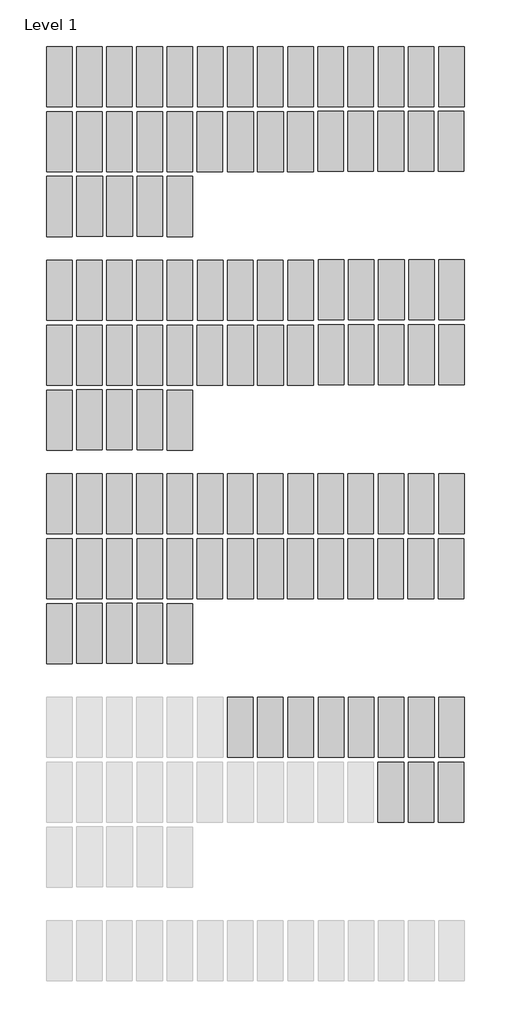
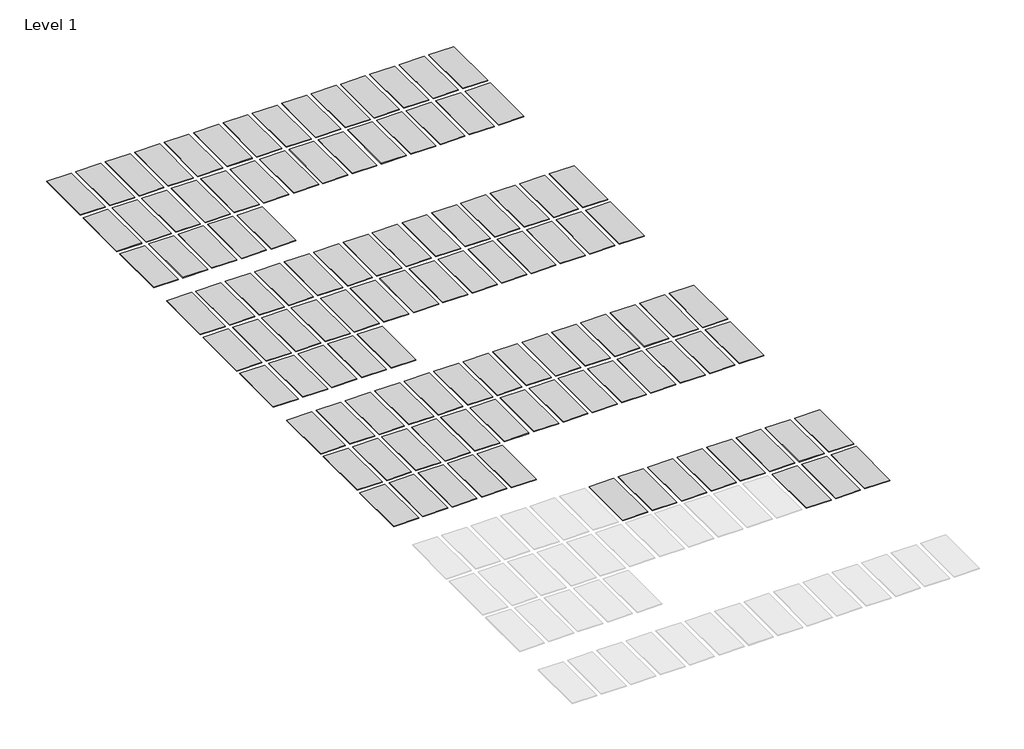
# One storey, part 3 of 3: 110 proxies.
"""IFC4 building model written with IfcOpenShell, lengths in millimetres."""

from ifc_helpers import new_model, si_unit, origin, place, context, project, spatial, transform, mapped, element, save
from components import materialsample_type_1_ed131d8e

model = new_model("IFC4")

# Units and contexts
model_context = context("Model", 3, world=origin())
ifc_project = project(units=[si_unit("LENGTHUNIT", "METRE", prefix="MILLI")], contexts=[model_context])

# Site, building, storey
site = spatial("IfcSite", under=ifc_project)
building = spatial("IfcBuilding", under=site)
storey = spatial("IfcBuildingStorey", under=building, Name="Level 1", Elevation=0.0)

# Proxies
placement = place(None, origin())
materialsample_type_1_shape = materialsample_type_1_ed131d8e(model_context)
element("IfcBuildingElementProxy", 1, Name="MaterialSample : Type 1", ObjectType="MaterialSample : Type 1", at=placement, inside=storey, context=model_context, shape_type="MappedRepresentation", body=[
    mapped(materialsample_type_1_shape, transform((0.0, -13258.8, 0.0), x_axis=(1.0, 0.0, 0.0), y_axis=(0.0, 1.0, 0.0), z_axis=(0.0, 0.0, 1.0))),
])
element("IfcBuildingElementProxy", 2, Name="MaterialSample : Type 1", ObjectType="MaterialSample : Type 1", at=placement, inside=storey, context=model_context, shape_type="MappedRepresentation", body=[
    mapped(materialsample_type_1_shape, transform((1371.6, -13258.8, 0.0), x_axis=(1.0, 0.0, 0.0), y_axis=(0.0, 1.0, 0.0), z_axis=(0.0, 0.0, 1.0))),
])
element("IfcBuildingElementProxy", 3, Name="MaterialSample : Type 1", ObjectType="MaterialSample : Type 1", at=placement, inside=storey, context=model_context, shape_type="MappedRepresentation", body=[
    mapped(materialsample_type_1_shape, transform((2750.8974335, -13258.8, 0.0), x_axis=(1.0, 0.0, 0.0), y_axis=(0.0, 1.0, 0.0), z_axis=(0.0, 0.0, 1.0))),
])
element("IfcBuildingElementProxy", 4, Name="MaterialSample : Type 1", ObjectType="MaterialSample : Type 1", at=placement, inside=storey, context=model_context, shape_type="MappedRepresentation", body=[
    mapped(materialsample_type_1_shape, transform((4130.1948669, -13258.8, 0.0), x_axis=(1.0, 0.0, 0.0), y_axis=(0.0, 1.0, 0.0), z_axis=(0.0, 0.0, 1.0))),
])
element("IfcBuildingElementProxy", 5, Name="MaterialSample : Type 1", ObjectType="MaterialSample : Type 1", at=placement, inside=storey, context=model_context, shape_type="MappedRepresentation", body=[
    mapped(materialsample_type_1_shape, transform((5509.4923004, -13258.8, 0.0), x_axis=(1.0, 0.0, 0.0), y_axis=(0.0, 1.0, 0.0), z_axis=(0.0, 0.0, 1.0))),
])
element("IfcBuildingElementProxy", 6, Name="MaterialSample : Type 1", ObjectType="MaterialSample : Type 1", at=placement, inside=storey, context=model_context, shape_type="MappedRepresentation", body=[
    mapped(materialsample_type_1_shape, transform((6896.4871673, -13258.8, 0.0), x_axis=(1.0, 0.0, 0.0), y_axis=(0.0, 1.0, 0.0), z_axis=(0.0, 0.0, 1.0))),
])
element("IfcBuildingElementProxy", 7, Name="MaterialSample : Type 1", ObjectType="MaterialSample : Type 1", at=placement, inside=storey, context=model_context, shape_type="MappedRepresentation", body=[
    mapped(materialsample_type_1_shape, transform((8275.7846008, -13258.8, 0.0), x_axis=(1.0, 0.0, 0.0), y_axis=(0.0, 1.0, 0.0), z_axis=(0.0, 0.0, 1.0))),
])
element("IfcBuildingElementProxy", 8, Name="MaterialSample : Type 1", ObjectType="MaterialSample : Type 1", at=placement, inside=storey, context=model_context, shape_type="MappedRepresentation", body=[
    mapped(materialsample_type_1_shape, transform((9647.3846008, -13258.8, 0.0), x_axis=(1.0, 0.0, 0.0), y_axis=(0.0, 1.0, 0.0), z_axis=(0.0, 0.0, 1.0))),
])
element("IfcBuildingElementProxy", 9, Name="MaterialSample : Type 1", ObjectType="MaterialSample : Type 1", at=placement, inside=storey, context=model_context, shape_type="MappedRepresentation", body=[
    mapped(materialsample_type_1_shape, transform((11034.3794677, -13258.8, 0.0), x_axis=(1.0, 0.0, 0.0), y_axis=(0.0, 1.0, 0.0), z_axis=(0.0, 0.0, 1.0))),
])
element("IfcBuildingElementProxy", 10, Name="MaterialSample : Type 1", ObjectType="MaterialSample : Type 1", at=placement, inside=storey, context=model_context, shape_type="MappedRepresentation", body=[
    mapped(materialsample_type_1_shape, transform((12413.6769011, -13258.8, 0.0), x_axis=(1.0, 0.0, 0.0), y_axis=(0.0, 1.0, 0.0), z_axis=(0.0, 0.0, 1.0))),
])
element("IfcBuildingElementProxy", 11, Name="MaterialSample : Type 1", ObjectType="MaterialSample : Type 1", at=placement, inside=storey, context=model_context, shape_type="MappedRepresentation", body=[
    mapped(materialsample_type_1_shape, transform((13785.2769011, -13258.8, 0.0), x_axis=(1.0, 0.0, 0.0), y_axis=(0.0, 1.0, 0.0), z_axis=(0.0, 0.0, 1.0))),
])
element("IfcBuildingElementProxy", 12, Name="MaterialSample : Type 1", ObjectType="MaterialSample : Type 1", at=placement, inside=storey, context=model_context, shape_type="MappedRepresentation", body=[
    mapped(materialsample_type_1_shape, transform((15164.5743346, -13258.8, 0.0), x_axis=(1.0, 0.0, 0.0), y_axis=(0.0, 1.0, 0.0), z_axis=(0.0, 0.0, 1.0))),
])
element("IfcBuildingElementProxy", 13, Name="MaterialSample : Type 1", ObjectType="MaterialSample : Type 1", at=placement, inside=storey, context=model_context, shape_type="MappedRepresentation", body=[
    mapped(materialsample_type_1_shape, transform((16543.871768, -13258.8, 0.0), x_axis=(1.0, 0.0, 0.0), y_axis=(0.0, 1.0, 0.0), z_axis=(0.0, 0.0, 1.0))),
])
element("IfcBuildingElementProxy", 14, Name="MaterialSample : Type 1", ObjectType="MaterialSample : Type 1", at=placement, inside=storey, context=model_context, shape_type="MappedRepresentation", body=[
    mapped(materialsample_type_1_shape, transform((17923.1692015, -13258.8, 0.0), x_axis=(1.0, 0.0, 0.0), y_axis=(0.0, 1.0, 0.0), z_axis=(0.0, 0.0, 1.0))),
])
element("IfcBuildingElementProxy", 15, Name="MaterialSample : Type 1", ObjectType="MaterialSample : Type 1", at=placement, inside=storey, context=model_context, shape_type="MappedRepresentation", body=[
    mapped(materialsample_type_1_shape, transform((0.0, -16225.2569203, 0.0), x_axis=(1.0, 0.0, 0.0), y_axis=(0.0, 1.0, 0.0), z_axis=(0.0, 0.0, 1.0))),
])
element("IfcBuildingElementProxy", 16, Name="MaterialSample : Type 1", ObjectType="MaterialSample : Type 1", at=placement, inside=storey, context=model_context, shape_type="MappedRepresentation", body=[
    mapped(materialsample_type_1_shape, transform((1379.2974335, -16225.2569203, 0.0), x_axis=(1.0, 0.0, 0.0), y_axis=(0.0, 1.0, 0.0), z_axis=(0.0, 0.0, 1.0))),
])
element("IfcBuildingElementProxy", 17, Name="MaterialSample : Type 1", ObjectType="MaterialSample : Type 1", at=placement, inside=storey, context=model_context, shape_type="MappedRepresentation", body=[
    mapped(materialsample_type_1_shape, transform((2750.8974335, -16225.2569203, 0.0), x_axis=(1.0, 0.0, 0.0), y_axis=(0.0, 1.0, 0.0), z_axis=(0.0, 0.0, 1.0))),
])
element("IfcBuildingElementProxy", 18, Name="MaterialSample : Type 1", ObjectType="MaterialSample : Type 1", at=placement, inside=storey, context=model_context, shape_type="MappedRepresentation", body=[
    mapped(materialsample_type_1_shape, transform((4137.8923004, -16225.2569203, 0.0), x_axis=(1.0, 0.0, 0.0), y_axis=(0.0, 1.0, 0.0), z_axis=(0.0, 0.0, 1.0))),
])
element("IfcBuildingElementProxy", 19, Name="MaterialSample : Type 1", ObjectType="MaterialSample : Type 1", at=placement, inside=storey, context=model_context, shape_type="MappedRepresentation", body=[
    mapped(materialsample_type_1_shape, transform((5509.4923004, -16225.2569203, 0.0), x_axis=(1.0, 0.0, 0.0), y_axis=(0.0, 1.0, 0.0), z_axis=(0.0, 0.0, 1.0))),
])
element("IfcBuildingElementProxy", 20, Name="MaterialSample : Type 1", ObjectType="MaterialSample : Type 1", at=placement, inside=storey, context=model_context, shape_type="MappedRepresentation", body=[
    mapped(materialsample_type_1_shape, transform((6888.7897338, -16225.2569203, 0.0), x_axis=(1.0, 0.0, 0.0), y_axis=(0.0, 1.0, 0.0), z_axis=(0.0, 0.0, 1.0))),
])
element("IfcBuildingElementProxy", 21, Name="MaterialSample : Type 1", ObjectType="MaterialSample : Type 1", at=placement, inside=storey, context=model_context, shape_type="MappedRepresentation", body=[
    mapped(materialsample_type_1_shape, transform((8285.7897338, -16225.2569203, 0.0), x_axis=(1.0, 0.0, 0.0), y_axis=(0.0, 1.0, 0.0), z_axis=(0.0, 0.0, 1.0))),
])
element("IfcBuildingElementProxy", 22, Name="MaterialSample : Type 1", ObjectType="MaterialSample : Type 1", at=placement, inside=storey, context=model_context, shape_type="MappedRepresentation", body=[
    mapped(materialsample_type_1_shape, transform((9655.0820342, -16225.2569203, 0.0), x_axis=(1.0, 0.0, 0.0), y_axis=(0.0, 1.0, 0.0), z_axis=(0.0, 0.0, 1.0))),
])
element("IfcBuildingElementProxy", 23, Name="MaterialSample : Type 1", ObjectType="MaterialSample : Type 1", at=placement, inside=storey, context=model_context, shape_type="MappedRepresentation", body=[
    mapped(materialsample_type_1_shape, transform((11026.6820342, -16225.2569203, 0.0), x_axis=(1.0, 0.0, 0.0), y_axis=(0.0, 1.0, 0.0), z_axis=(0.0, 0.0, 1.0))),
])
element("IfcBuildingElementProxy", 24, Name="MaterialSample : Type 1", ObjectType="MaterialSample : Type 1", at=placement, inside=storey, context=model_context, shape_type="MappedRepresentation", body=[
    mapped(materialsample_type_1_shape, transform((12405.9794677, -16215.2284602, 0.0), x_axis=(1.0, 0.0, 0.0), y_axis=(0.0, 1.0, 0.0), z_axis=(0.0, 0.0, 1.0))),
])
element("IfcBuildingElementProxy", 25, Name="MaterialSample : Type 1", ObjectType="MaterialSample : Type 1", at=placement, inside=storey, context=model_context, shape_type="MappedRepresentation", body=[
    mapped(materialsample_type_1_shape, transform((13777.5794677, -16215.2284602, 0.0), x_axis=(1.0, 0.0, 0.0), y_axis=(0.0, 1.0, 0.0), z_axis=(0.0, 0.0, 1.0))),
])
element("IfcBuildingElementProxy", 26, Name="MaterialSample : Type 1", ObjectType="MaterialSample : Type 1", at=placement, inside=storey, context=model_context, shape_type="MappedRepresentation", body=[
    mapped(materialsample_type_1_shape, transform((15156.8769011, -16215.2284602, 0.0), x_axis=(1.0, 0.0, 0.0), y_axis=(0.0, 1.0, 0.0), z_axis=(0.0, 0.0, 1.0))),
])
element("IfcBuildingElementProxy", 27, Name="MaterialSample : Type 1", ObjectType="MaterialSample : Type 1", at=placement, inside=storey, context=model_context, shape_type="MappedRepresentation", body=[
    mapped(materialsample_type_1_shape, transform((16536.1743346, -16215.2284602, 0.0), x_axis=(1.0, 0.0, 0.0), y_axis=(0.0, 1.0, 0.0), z_axis=(0.0, 0.0, 1.0))),
])
element("IfcBuildingElementProxy", 28, Name="MaterialSample : Type 1", ObjectType="MaterialSample : Type 1", at=placement, inside=storey, context=model_context, shape_type="MappedRepresentation", body=[
    mapped(materialsample_type_1_shape, transform((17915.471768, -16215.2284602, 0.0), x_axis=(1.0, 0.0, 0.0), y_axis=(0.0, 1.0, 0.0), z_axis=(0.0, 0.0, 1.0))),
])
element("IfcBuildingElementProxy", 29, Name="MaterialSample : Type 1", ObjectType="MaterialSample : Type 1", at=placement, inside=storey, context=model_context, shape_type="MappedRepresentation", body=[
    mapped(materialsample_type_1_shape, transform((7.6974335, -19191.7138407, 0.0), x_axis=(1.0, 0.0, 0.0), y_axis=(0.0, 1.0, 0.0), z_axis=(0.0, 0.0, 1.0))),
])
element("IfcBuildingElementProxy", 30, Name="MaterialSample : Type 1", ObjectType="MaterialSample : Type 1", at=placement, inside=storey, context=model_context, shape_type="MappedRepresentation", body=[
    mapped(materialsample_type_1_shape, transform((1386.9948669, -19171.6569203, 0.0), x_axis=(1.0, 0.0, 0.0), y_axis=(0.0, 1.0, 0.0), z_axis=(0.0, 0.0, 1.0))),
])
element("IfcBuildingElementProxy", 31, Name="MaterialSample : Type 1", ObjectType="MaterialSample : Type 1", at=placement, inside=storey, context=model_context, shape_type="MappedRepresentation", body=[
    mapped(materialsample_type_1_shape, transform((2758.5948669, -19171.6569203, 0.0), x_axis=(1.0, 0.0, 0.0), y_axis=(0.0, 1.0, 0.0), z_axis=(0.0, 0.0, 1.0))),
])
element("IfcBuildingElementProxy", 32, Name="MaterialSample : Type 1", ObjectType="MaterialSample : Type 1", at=placement, inside=storey, context=model_context, shape_type="MappedRepresentation", body=[
    mapped(materialsample_type_1_shape, transform((4145.5897338, -19171.6569203, 0.0), x_axis=(1.0, 0.0, 0.0), y_axis=(0.0, 1.0, 0.0), z_axis=(0.0, 0.0, 1.0))),
])
element("IfcBuildingElementProxy", 33, Name="MaterialSample : Type 1", ObjectType="MaterialSample : Type 1", at=placement, inside=storey, context=model_context, shape_type="MappedRepresentation", body=[
    mapped(materialsample_type_1_shape, transform((5517.1897338, -19191.7138407, 0.0), x_axis=(1.0, 0.0, 0.0), y_axis=(0.0, 1.0, 0.0), z_axis=(0.0, 0.0, 1.0))),
])
element("IfcBuildingElementProxy", 34, Name="MaterialSample : Type 1", ObjectType="MaterialSample : Type 1", at=placement, inside=storey, context=model_context, shape_type="MappedRepresentation", body=[
    mapped(materialsample_type_1_shape, transform((0.0, -23012.4, 0.0), x_axis=(1.0, 0.0, 0.0), y_axis=(0.0, 1.0, 0.0), z_axis=(0.0, 0.0, 1.0))),
])
element("IfcBuildingElementProxy", 35, Name="MaterialSample : Type 1", ObjectType="MaterialSample : Type 1", at=placement, inside=storey, context=model_context, shape_type="MappedRepresentation", body=[
    mapped(materialsample_type_1_shape, transform((1371.6, -23012.4, 0.0), x_axis=(1.0, 0.0, 0.0), y_axis=(0.0, 1.0, 0.0), z_axis=(0.0, 0.0, 1.0))),
])
element("IfcBuildingElementProxy", 36, Name="MaterialSample : Type 1", ObjectType="MaterialSample : Type 1", at=placement, inside=storey, context=model_context, shape_type="MappedRepresentation", body=[
    mapped(materialsample_type_1_shape, transform((2750.8974335, -23012.4, 0.0), x_axis=(1.0, 0.0, 0.0), y_axis=(0.0, 1.0, 0.0), z_axis=(0.0, 0.0, 1.0))),
])
element("IfcBuildingElementProxy", 37, Name="MaterialSample : Type 1", ObjectType="MaterialSample : Type 1", at=placement, inside=storey, context=model_context, shape_type="MappedRepresentation", body=[
    mapped(materialsample_type_1_shape, transform((4130.1948669, -23012.4, 0.0), x_axis=(1.0, 0.0, 0.0), y_axis=(0.0, 1.0, 0.0), z_axis=(0.0, 0.0, 1.0))),
])
element("IfcBuildingElementProxy", 38, Name="MaterialSample : Type 1", ObjectType="MaterialSample : Type 1", at=placement, inside=storey, context=model_context, shape_type="MappedRepresentation", body=[
    mapped(materialsample_type_1_shape, transform((5509.4923004, -23012.4, 0.0), x_axis=(1.0, 0.0, 0.0), y_axis=(0.0, 1.0, 0.0), z_axis=(0.0, 0.0, 1.0))),
])
element("IfcBuildingElementProxy", 39, Name="MaterialSample : Type 1", ObjectType="MaterialSample : Type 1", at=placement, inside=storey, context=model_context, shape_type="MappedRepresentation", body=[
    mapped(materialsample_type_1_shape, transform((6896.4871673, -23012.4, 0.0), x_axis=(1.0, 0.0, 0.0), y_axis=(0.0, 1.0, 0.0), z_axis=(0.0, 0.0, 1.0))),
])
element("IfcBuildingElementProxy", 40, Name="MaterialSample : Type 1", ObjectType="MaterialSample : Type 1", at=placement, inside=storey, context=model_context, shape_type="MappedRepresentation", body=[
    mapped(materialsample_type_1_shape, transform((8275.7846008, -23012.4, 0.0), x_axis=(1.0, 0.0, 0.0), y_axis=(0.0, 1.0, 0.0), z_axis=(0.0, 0.0, 1.0))),
])
element("IfcBuildingElementProxy", 41, Name="MaterialSample : Type 1", ObjectType="MaterialSample : Type 1", at=placement, inside=storey, context=model_context, shape_type="MappedRepresentation", body=[
    mapped(materialsample_type_1_shape, transform((9647.3846008, -23012.4, 0.0), x_axis=(1.0, 0.0, 0.0), y_axis=(0.0, 1.0, 0.0), z_axis=(0.0, 0.0, 1.0))),
])
element("IfcBuildingElementProxy", 42, Name="MaterialSample : Type 1", ObjectType="MaterialSample : Type 1", at=placement, inside=storey, context=model_context, shape_type="MappedRepresentation", body=[
    mapped(materialsample_type_1_shape, transform((11034.3794677, -23012.4, 0.0), x_axis=(1.0, 0.0, 0.0), y_axis=(0.0, 1.0, 0.0), z_axis=(0.0, 0.0, 1.0))),
])
element("IfcBuildingElementProxy", 43, Name="MaterialSample : Type 1", ObjectType="MaterialSample : Type 1", at=placement, inside=storey, context=model_context, shape_type="MappedRepresentation", body=[
    mapped(materialsample_type_1_shape, transform((11026.6820342, -25978.8569203, 0.0), x_axis=(1.0, 0.0, 0.0), y_axis=(0.0, 1.0, 0.0), z_axis=(0.0, 0.0, 1.0))),
])
element("IfcBuildingElementProxy", 44, Name="MaterialSample : Type 1", ObjectType="MaterialSample : Type 1", at=placement, inside=storey, context=model_context, shape_type="MappedRepresentation", body=[
    mapped(materialsample_type_1_shape, transform((9655.0820342, -25978.8569203, 0.0), x_axis=(1.0, 0.0, 0.0), y_axis=(0.0, 1.0, 0.0), z_axis=(0.0, 0.0, 1.0))),
])
element("IfcBuildingElementProxy", 45, Name="MaterialSample : Type 1", ObjectType="MaterialSample : Type 1", at=placement, inside=storey, context=model_context, shape_type="MappedRepresentation", body=[
    mapped(materialsample_type_1_shape, transform((8285.7897338, -25978.8569203, 0.0), x_axis=(1.0, 0.0, 0.0), y_axis=(0.0, 1.0, 0.0), z_axis=(0.0, 0.0, 1.0))),
])
element("IfcBuildingElementProxy", 46, Name="MaterialSample : Type 1", ObjectType="MaterialSample : Type 1", at=placement, inside=storey, context=model_context, shape_type="MappedRepresentation", body=[
    mapped(materialsample_type_1_shape, transform((6888.7897338, -25978.8569203, 0.0), x_axis=(1.0, 0.0, 0.0), y_axis=(0.0, 1.0, 0.0), z_axis=(0.0, 0.0, 1.0))),
])
element("IfcBuildingElementProxy", 47, Name="MaterialSample : Type 1", ObjectType="MaterialSample : Type 1", at=placement, inside=storey, context=model_context, shape_type="MappedRepresentation", body=[
    mapped(materialsample_type_1_shape, transform((5509.4923004, -25978.8569203, 0.0), x_axis=(1.0, 0.0, 0.0), y_axis=(0.0, 1.0, 0.0), z_axis=(0.0, 0.0, 1.0))),
])
element("IfcBuildingElementProxy", 48, Name="MaterialSample : Type 1", ObjectType="MaterialSample : Type 1", at=placement, inside=storey, context=model_context, shape_type="MappedRepresentation", body=[
    mapped(materialsample_type_1_shape, transform((4137.8923004, -25978.8569203, 0.0), x_axis=(1.0, 0.0, 0.0), y_axis=(0.0, 1.0, 0.0), z_axis=(0.0, 0.0, 1.0))),
])
element("IfcBuildingElementProxy", 49, Name="MaterialSample : Type 1", ObjectType="MaterialSample : Type 1", at=placement, inside=storey, context=model_context, shape_type="MappedRepresentation", body=[
    mapped(materialsample_type_1_shape, transform((2750.8974335, -25978.8569203, 0.0), x_axis=(1.0, 0.0, 0.0), y_axis=(0.0, 1.0, 0.0), z_axis=(0.0, 0.0, 1.0))),
])
element("IfcBuildingElementProxy", 50, Name="MaterialSample : Type 1", ObjectType="MaterialSample : Type 1", at=placement, inside=storey, context=model_context, shape_type="MappedRepresentation", body=[
    mapped(materialsample_type_1_shape, transform((1379.2974335, -25978.8569203, 0.0), x_axis=(1.0, 0.0, 0.0), y_axis=(0.0, 1.0, 0.0), z_axis=(0.0, 0.0, 1.0))),
])
element("IfcBuildingElementProxy", 51, Name="MaterialSample : Type 1", ObjectType="MaterialSample : Type 1", at=placement, inside=storey, context=model_context, shape_type="MappedRepresentation", body=[
    mapped(materialsample_type_1_shape, transform((0.0, -25978.8569203, 0.0), x_axis=(1.0, 0.0, 0.0), y_axis=(0.0, 1.0, 0.0), z_axis=(0.0, 0.0, 1.0))),
])
element("IfcBuildingElementProxy", 52, Name="MaterialSample : Type 1", ObjectType="MaterialSample : Type 1", at=placement, inside=storey, context=model_context, shape_type="MappedRepresentation", body=[
    mapped(materialsample_type_1_shape, transform((17938.5640684, -23002.3715398, 0.0), x_axis=(1.0, 0.0, 0.0), y_axis=(0.0, 1.0, 0.0), z_axis=(0.0, 0.0, 1.0))),
])
element("IfcBuildingElementProxy", 53, Name="MaterialSample : Type 1", ObjectType="MaterialSample : Type 1", at=placement, inside=storey, context=model_context, shape_type="MappedRepresentation", body=[
    mapped(materialsample_type_1_shape, transform((16559.266635, -23002.3715398, 0.0), x_axis=(1.0, 0.0, 0.0), y_axis=(0.0, 1.0, 0.0), z_axis=(0.0, 0.0, 1.0))),
])
element("IfcBuildingElementProxy", 54, Name="MaterialSample : Type 1", ObjectType="MaterialSample : Type 1", at=placement, inside=storey, context=model_context, shape_type="MappedRepresentation", body=[
    mapped(materialsample_type_1_shape, transform((15179.9692015, -23002.3715398, 0.0), x_axis=(1.0, 0.0, 0.0), y_axis=(0.0, 1.0, 0.0), z_axis=(0.0, 0.0, 1.0))),
])
element("IfcBuildingElementProxy", 55, Name="MaterialSample : Type 1", ObjectType="MaterialSample : Type 1", at=placement, inside=storey, context=model_context, shape_type="MappedRepresentation", body=[
    mapped(materialsample_type_1_shape, transform((13800.671768, -23002.3715398, 0.0), x_axis=(1.0, 0.0, 0.0), y_axis=(0.0, 1.0, 0.0), z_axis=(0.0, 0.0, 1.0))),
])
element("IfcBuildingElementProxy", 56, Name="MaterialSample : Type 1", ObjectType="MaterialSample : Type 1", at=placement, inside=storey, context=model_context, shape_type="MappedRepresentation", body=[
    mapped(materialsample_type_1_shape, transform((12429.071768, -23002.3715398, 0.0), x_axis=(1.0, 0.0, 0.0), y_axis=(0.0, 1.0, 0.0), z_axis=(0.0, 0.0, 1.0))),
])
element("IfcBuildingElementProxy", 57, Name="MaterialSample : Type 1", ObjectType="MaterialSample : Type 1", at=placement, inside=storey, context=model_context, shape_type="MappedRepresentation", body=[
    mapped(materialsample_type_1_shape, transform((12421.3743346, -25968.8284602, 0.0), x_axis=(1.0, 0.0, 0.0), y_axis=(0.0, 1.0, 0.0), z_axis=(0.0, 0.0, 1.0))),
])
element("IfcBuildingElementProxy", 58, Name="MaterialSample : Type 1", ObjectType="MaterialSample : Type 1", at=placement, inside=storey, context=model_context, shape_type="MappedRepresentation", body=[
    mapped(materialsample_type_1_shape, transform((13792.9743346, -25968.8284602, 0.0), x_axis=(1.0, 0.0, 0.0), y_axis=(0.0, 1.0, 0.0), z_axis=(0.0, 0.0, 1.0))),
])
element("IfcBuildingElementProxy", 59, Name="MaterialSample : Type 1", ObjectType="MaterialSample : Type 1", at=placement, inside=storey, context=model_context, shape_type="MappedRepresentation", body=[
    mapped(materialsample_type_1_shape, transform((15172.271768, -25968.8284602, 0.0), x_axis=(1.0, 0.0, 0.0), y_axis=(0.0, 1.0, 0.0), z_axis=(0.0, 0.0, 1.0))),
])
element("IfcBuildingElementProxy", 60, Name="MaterialSample : Type 1", ObjectType="MaterialSample : Type 1", at=placement, inside=storey, context=model_context, shape_type="MappedRepresentation", body=[
    mapped(materialsample_type_1_shape, transform((16551.5692015, -25968.8284602, 0.0), x_axis=(1.0, 0.0, 0.0), y_axis=(0.0, 1.0, 0.0), z_axis=(0.0, 0.0, 1.0))),
])
element("IfcBuildingElementProxy", 61, Name="MaterialSample : Type 1", ObjectType="MaterialSample : Type 1", at=placement, inside=storey, context=model_context, shape_type="MappedRepresentation", body=[
    mapped(materialsample_type_1_shape, transform((17930.866635, -25968.8284602, 0.0), x_axis=(1.0, 0.0, 0.0), y_axis=(0.0, 1.0, 0.0), z_axis=(0.0, 0.0, 1.0))),
])
element("IfcBuildingElementProxy", 62, Name="MaterialSample : Type 1", ObjectType="MaterialSample : Type 1", at=placement, inside=storey, context=model_context, shape_type="MappedRepresentation", body=[
    mapped(materialsample_type_1_shape, transform((0.0, -28945.3138407, 0.0), x_axis=(1.0, 0.0, 0.0), y_axis=(0.0, 1.0, 0.0), z_axis=(0.0, 0.0, 1.0))),
])
element("IfcBuildingElementProxy", 63, Name="MaterialSample : Type 1", ObjectType="MaterialSample : Type 1", at=placement, inside=storey, context=model_context, shape_type="MappedRepresentation", body=[
    mapped(materialsample_type_1_shape, transform((1379.2974335, -28925.2569203, 0.0), x_axis=(1.0, 0.0, 0.0), y_axis=(0.0, 1.0, 0.0), z_axis=(0.0, 0.0, 1.0))),
])
element("IfcBuildingElementProxy", 64, Name="MaterialSample : Type 1", ObjectType="MaterialSample : Type 1", at=placement, inside=storey, context=model_context, shape_type="MappedRepresentation", body=[
    mapped(materialsample_type_1_shape, transform((2750.8974335, -28925.2569203, 0.0), x_axis=(1.0, 0.0, 0.0), y_axis=(0.0, 1.0, 0.0), z_axis=(0.0, 0.0, 1.0))),
])
element("IfcBuildingElementProxy", 65, Name="MaterialSample : Type 1", ObjectType="MaterialSample : Type 1", at=placement, inside=storey, context=model_context, shape_type="MappedRepresentation", body=[
    mapped(materialsample_type_1_shape, transform((4137.8923004, -28925.2569203, 0.0), x_axis=(1.0, 0.0, 0.0), y_axis=(0.0, 1.0, 0.0), z_axis=(0.0, 0.0, 1.0))),
])
element("IfcBuildingElementProxy", 66, Name="MaterialSample : Type 1", ObjectType="MaterialSample : Type 1", at=placement, inside=storey, context=model_context, shape_type="MappedRepresentation", body=[
    mapped(materialsample_type_1_shape, transform((5509.4923004, -28945.3138407, 0.0), x_axis=(1.0, 0.0, 0.0), y_axis=(0.0, 1.0, 0.0), z_axis=(0.0, 0.0, 1.0))),
])
element("IfcBuildingElementProxy", 67, Name="MaterialSample : Type 1", ObjectType="MaterialSample : Type 1", at=placement, inside=storey, context=model_context, shape_type="MappedRepresentation", body=[
    mapped(materialsample_type_1_shape, transform((0.0, -32766.0, 0.0), x_axis=(1.0, 0.0, 0.0), y_axis=(0.0, 1.0, 0.0), z_axis=(0.0, 0.0, 1.0))),
])
element("IfcBuildingElementProxy", 68, Name="MaterialSample : Type 1", ObjectType="MaterialSample : Type 1", at=placement, inside=storey, context=model_context, shape_type="MappedRepresentation", body=[
    mapped(materialsample_type_1_shape, transform((1371.6, -32766.0, 0.0), x_axis=(1.0, 0.0, 0.0), y_axis=(0.0, 1.0, 0.0), z_axis=(0.0, 0.0, 1.0))),
])
element("IfcBuildingElementProxy", 69, Name="MaterialSample : Type 1", ObjectType="MaterialSample : Type 1", at=placement, inside=storey, context=model_context, shape_type="MappedRepresentation", body=[
    mapped(materialsample_type_1_shape, transform((2750.8974335, -32766.0, 0.0), x_axis=(1.0, 0.0, 0.0), y_axis=(0.0, 1.0, 0.0), z_axis=(0.0, 0.0, 1.0))),
])
element("IfcBuildingElementProxy", 70, Name="MaterialSample : Type 1", ObjectType="MaterialSample : Type 1", at=placement, inside=storey, context=model_context, shape_type="MappedRepresentation", body=[
    mapped(materialsample_type_1_shape, transform((4130.1948669, -32766.0, 0.0), x_axis=(1.0, 0.0, 0.0), y_axis=(0.0, 1.0, 0.0), z_axis=(0.0, 0.0, 1.0))),
])
element("IfcBuildingElementProxy", 71, Name="MaterialSample : Type 1", ObjectType="MaterialSample : Type 1", at=placement, inside=storey, context=model_context, shape_type="MappedRepresentation", body=[
    mapped(materialsample_type_1_shape, transform((5509.4923004, -32766.0, 0.0), x_axis=(1.0, 0.0, 0.0), y_axis=(0.0, 1.0, 0.0), z_axis=(0.0, 0.0, 1.0))),
])
element("IfcBuildingElementProxy", 72, Name="MaterialSample : Type 1", ObjectType="MaterialSample : Type 1", at=placement, inside=storey, context=model_context, shape_type="MappedRepresentation", body=[
    mapped(materialsample_type_1_shape, transform((6896.4871673, -32766.0, 0.0), x_axis=(1.0, 0.0, 0.0), y_axis=(0.0, 1.0, 0.0), z_axis=(0.0, 0.0, 1.0))),
])
element("IfcBuildingElementProxy", 73, Name="MaterialSample : Type 1", ObjectType="MaterialSample : Type 1", at=placement, inside=storey, context=model_context, shape_type="MappedRepresentation", body=[
    mapped(materialsample_type_1_shape, transform((8275.7846008, -32766.0, 0.0), x_axis=(1.0, 0.0, 0.0), y_axis=(0.0, 1.0, 0.0), z_axis=(0.0, 0.0, 1.0))),
])
element("IfcBuildingElementProxy", 74, Name="MaterialSample : Type 1", ObjectType="MaterialSample : Type 1", at=placement, inside=storey, context=model_context, shape_type="MappedRepresentation", body=[
    mapped(materialsample_type_1_shape, transform((9647.3846008, -32766.0, 0.0), x_axis=(1.0, 0.0, 0.0), y_axis=(0.0, 1.0, 0.0), z_axis=(0.0, 0.0, 1.0))),
])
element("IfcBuildingElementProxy", 75, Name="MaterialSample : Type 1", ObjectType="MaterialSample : Type 1", at=placement, inside=storey, context=model_context, shape_type="MappedRepresentation", body=[
    mapped(materialsample_type_1_shape, transform((11034.3794677, -32766.0, 0.0), x_axis=(1.0, 0.0, 0.0), y_axis=(0.0, 1.0, 0.0), z_axis=(0.0, 0.0, 1.0))),
])
element("IfcBuildingElementProxy", 76, Name="MaterialSample : Type 1", ObjectType="MaterialSample : Type 1", at=placement, inside=storey, context=model_context, shape_type="MappedRepresentation", body=[
    mapped(materialsample_type_1_shape, transform((11026.6820342, -35732.4569203, 0.0), x_axis=(1.0, 0.0, 0.0), y_axis=(0.0, 1.0, 0.0), z_axis=(0.0, 0.0, 1.0))),
])
element("IfcBuildingElementProxy", 77, Name="MaterialSample : Type 1", ObjectType="MaterialSample : Type 1", at=placement, inside=storey, context=model_context, shape_type="MappedRepresentation", body=[
    mapped(materialsample_type_1_shape, transform((9655.0820342, -35732.4569203, 0.0), x_axis=(1.0, 0.0, 0.0), y_axis=(0.0, 1.0, 0.0), z_axis=(0.0, 0.0, 1.0))),
])
element("IfcBuildingElementProxy", 78, Name="MaterialSample : Type 1", ObjectType="MaterialSample : Type 1", at=placement, inside=storey, context=model_context, shape_type="MappedRepresentation", body=[
    mapped(materialsample_type_1_shape, transform((8285.7897338, -35732.4569203, 0.0), x_axis=(1.0, 0.0, 0.0), y_axis=(0.0, 1.0, 0.0), z_axis=(0.0, 0.0, 1.0))),
])
element("IfcBuildingElementProxy", 79, Name="MaterialSample : Type 1", ObjectType="MaterialSample : Type 1", at=placement, inside=storey, context=model_context, shape_type="MappedRepresentation", body=[
    mapped(materialsample_type_1_shape, transform((6888.7897338, -35732.4569203, 0.0), x_axis=(1.0, 0.0, 0.0), y_axis=(0.0, 1.0, 0.0), z_axis=(0.0, 0.0, 1.0))),
])
element("IfcBuildingElementProxy", 80, Name="MaterialSample : Type 1", ObjectType="MaterialSample : Type 1", at=placement, inside=storey, context=model_context, shape_type="MappedRepresentation", body=[
    mapped(materialsample_type_1_shape, transform((5509.4923004, -35732.4569203, 0.0), x_axis=(1.0, 0.0, 0.0), y_axis=(0.0, 1.0, 0.0), z_axis=(0.0, 0.0, 1.0))),
])
element("IfcBuildingElementProxy", 81, Name="MaterialSample : Type 1", ObjectType="MaterialSample : Type 1", at=placement, inside=storey, context=model_context, shape_type="MappedRepresentation", body=[
    mapped(materialsample_type_1_shape, transform((4137.8923004, -35732.4569203, 0.0), x_axis=(1.0, 0.0, 0.0), y_axis=(0.0, 1.0, 0.0), z_axis=(0.0, 0.0, 1.0))),
])
element("IfcBuildingElementProxy", 82, Name="MaterialSample : Type 1", ObjectType="MaterialSample : Type 1", at=placement, inside=storey, context=model_context, shape_type="MappedRepresentation", body=[
    mapped(materialsample_type_1_shape, transform((2750.8974335, -35732.4569203, 0.0), x_axis=(1.0, 0.0, 0.0), y_axis=(0.0, 1.0, 0.0), z_axis=(0.0, 0.0, 1.0))),
])
element("IfcBuildingElementProxy", 83, Name="MaterialSample : Type 1", ObjectType="MaterialSample : Type 1", at=placement, inside=storey, context=model_context, shape_type="MappedRepresentation", body=[
    mapped(materialsample_type_1_shape, transform((1379.2974335, -35732.4569203, 0.0), x_axis=(1.0, 0.0, 0.0), y_axis=(0.0, 1.0, 0.0), z_axis=(0.0, 0.0, 1.0))),
])
element("IfcBuildingElementProxy", 84, Name="MaterialSample : Type 1", ObjectType="MaterialSample : Type 1", at=placement, inside=storey, context=model_context, shape_type="MappedRepresentation", body=[
    mapped(materialsample_type_1_shape, transform((0.0, -35732.4569203, 0.0), x_axis=(1.0, 0.0, 0.0), y_axis=(0.0, 1.0, 0.0), z_axis=(0.0, 0.0, 1.0))),
])
element("IfcBuildingElementProxy", 85, Name="MaterialSample : Type 1", ObjectType="MaterialSample : Type 1", at=placement, inside=storey, context=model_context, shape_type="MappedRepresentation", body=[
    mapped(materialsample_type_1_shape, transform((17923.1692015, -32766.0, 0.0), x_axis=(1.0, 0.0, 0.0), y_axis=(0.0, 1.0, 0.0), z_axis=(0.0, 0.0, 1.0))),
])
element("IfcBuildingElementProxy", 86, Name="MaterialSample : Type 1", ObjectType="MaterialSample : Type 1", at=placement, inside=storey, context=model_context, shape_type="MappedRepresentation", body=[
    mapped(materialsample_type_1_shape, transform((16543.871768, -32766.0, 0.0), x_axis=(1.0, 0.0, 0.0), y_axis=(0.0, 1.0, 0.0), z_axis=(0.0, 0.0, 1.0))),
])
element("IfcBuildingElementProxy", 87, Name="MaterialSample : Type 1", ObjectType="MaterialSample : Type 1", at=placement, inside=storey, context=model_context, shape_type="MappedRepresentation", body=[
    mapped(materialsample_type_1_shape, transform((15164.5743346, -32766.0, 0.0), x_axis=(1.0, 0.0, 0.0), y_axis=(0.0, 1.0, 0.0), z_axis=(0.0, 0.0, 1.0))),
])
element("IfcBuildingElementProxy", 88, Name="MaterialSample : Type 1", ObjectType="MaterialSample : Type 1", at=placement, inside=storey, context=model_context, shape_type="MappedRepresentation", body=[
    mapped(materialsample_type_1_shape, transform((13785.2769011, -32766.0, 0.0), x_axis=(1.0, 0.0, 0.0), y_axis=(0.0, 1.0, 0.0), z_axis=(0.0, 0.0, 1.0))),
])
element("IfcBuildingElementProxy", 89, Name="MaterialSample : Type 1", ObjectType="MaterialSample : Type 1", at=placement, inside=storey, context=model_context, shape_type="MappedRepresentation", body=[
    mapped(materialsample_type_1_shape, transform((12413.6769011, -32766.0, 0.0), x_axis=(1.0, 0.0, 0.0), y_axis=(0.0, 1.0, 0.0), z_axis=(0.0, 0.0, 1.0))),
])
element("IfcBuildingElementProxy", 90, Name="MaterialSample : Type 1", ObjectType="MaterialSample : Type 1", at=placement, inside=storey, context=model_context, shape_type="MappedRepresentation", body=[
    mapped(materialsample_type_1_shape, transform((12398.2820342, -35732.4569203, 0.0), x_axis=(1.0, 0.0, 0.0), y_axis=(0.0, 1.0, 0.0), z_axis=(0.0, 0.0, 1.0))),
])
element("IfcBuildingElementProxy", 91, Name="MaterialSample : Type 1", ObjectType="MaterialSample : Type 1", at=placement, inside=storey, context=model_context, shape_type="MappedRepresentation", body=[
    mapped(materialsample_type_1_shape, transform((13769.8820342, -35732.4569203, 0.0), x_axis=(1.0, 0.0, 0.0), y_axis=(0.0, 1.0, 0.0), z_axis=(0.0, 0.0, 1.0))),
])
element("IfcBuildingElementProxy", 92, Name="MaterialSample : Type 1", ObjectType="MaterialSample : Type 1", at=placement, inside=storey, context=model_context, shape_type="MappedRepresentation", body=[
    mapped(materialsample_type_1_shape, transform((15149.1794677, -35732.4569203, 0.0), x_axis=(1.0, 0.0, 0.0), y_axis=(0.0, 1.0, 0.0), z_axis=(0.0, 0.0, 1.0))),
])
element("IfcBuildingElementProxy", 93, Name="MaterialSample : Type 1", ObjectType="MaterialSample : Type 1", at=placement, inside=storey, context=model_context, shape_type="MappedRepresentation", body=[
    mapped(materialsample_type_1_shape, transform((16528.4769011, -35732.4569203, 0.0), x_axis=(1.0, 0.0, 0.0), y_axis=(0.0, 1.0, 0.0), z_axis=(0.0, 0.0, 1.0))),
])
element("IfcBuildingElementProxy", 94, Name="MaterialSample : Type 1", ObjectType="MaterialSample : Type 1", at=placement, inside=storey, context=model_context, shape_type="MappedRepresentation", body=[
    mapped(materialsample_type_1_shape, transform((17907.7743346, -35732.4569203, 0.0), x_axis=(1.0, 0.0, 0.0), y_axis=(0.0, 1.0, 0.0), z_axis=(0.0, 0.0, 1.0))),
])
element("IfcBuildingElementProxy", 95, Name="MaterialSample : Type 1", ObjectType="MaterialSample : Type 1", at=placement, inside=storey, context=model_context, shape_type="MappedRepresentation", body=[
    mapped(materialsample_type_1_shape, transform((0.0, -38698.9138407, 0.0), x_axis=(1.0, 0.0, 0.0), y_axis=(0.0, 1.0, 0.0), z_axis=(0.0, 0.0, 1.0))),
])
element("IfcBuildingElementProxy", 96, Name="MaterialSample : Type 1", ObjectType="MaterialSample : Type 1", at=placement, inside=storey, context=model_context, shape_type="MappedRepresentation", body=[
    mapped(materialsample_type_1_shape, transform((1379.2974335, -38678.8569203, 0.0), x_axis=(1.0, 0.0, 0.0), y_axis=(0.0, 1.0, 0.0), z_axis=(0.0, 0.0, 1.0))),
])
element("IfcBuildingElementProxy", 97, Name="MaterialSample : Type 1", ObjectType="MaterialSample : Type 1", at=placement, inside=storey, context=model_context, shape_type="MappedRepresentation", body=[
    mapped(materialsample_type_1_shape, transform((2750.8974335, -38678.8569203, 0.0), x_axis=(1.0, 0.0, 0.0), y_axis=(0.0, 1.0, 0.0), z_axis=(0.0, 0.0, 1.0))),
])
element("IfcBuildingElementProxy", 98, Name="MaterialSample : Type 1", ObjectType="MaterialSample : Type 1", at=placement, inside=storey, context=model_context, shape_type="MappedRepresentation", body=[
    mapped(materialsample_type_1_shape, transform((4137.8923004, -38678.8569203, 0.0), x_axis=(1.0, 0.0, 0.0), y_axis=(0.0, 1.0, 0.0), z_axis=(0.0, 0.0, 1.0))),
])
element("IfcBuildingElementProxy", 99, Name="MaterialSample : Type 1", ObjectType="MaterialSample : Type 1", at=placement, inside=storey, context=model_context, shape_type="MappedRepresentation", body=[
    mapped(materialsample_type_1_shape, transform((5509.4923004, -38698.9138407, 0.0), x_axis=(1.0, 0.0, 0.0), y_axis=(0.0, 1.0, 0.0), z_axis=(0.0, 0.0, 1.0))),
])
element("IfcBuildingElementProxy", 100, Name="MaterialSample : Type 1", ObjectType="MaterialSample : Type 1", at=placement, inside=storey, context=model_context, shape_type="MappedRepresentation", body=[
    mapped(materialsample_type_1_shape, transform((8275.7846008, -42976.8, 0.0), x_axis=(1.0, 0.0, 0.0), y_axis=(0.0, 1.0, 0.0), z_axis=(0.0, 0.0, 1.0))),
])
element("IfcBuildingElementProxy", 101, Name="MaterialSample : Type 1", ObjectType="MaterialSample : Type 1", at=placement, inside=storey, context=model_context, shape_type="MappedRepresentation", body=[
    mapped(materialsample_type_1_shape, transform((9647.3846008, -42976.8, 0.0), x_axis=(1.0, 0.0, 0.0), y_axis=(0.0, 1.0, 0.0), z_axis=(0.0, 0.0, 1.0))),
])
element("IfcBuildingElementProxy", 102, Name="MaterialSample : Type 1", ObjectType="MaterialSample : Type 1", at=placement, inside=storey, context=model_context, shape_type="MappedRepresentation", body=[
    mapped(materialsample_type_1_shape, transform((11034.3794677, -42976.8, 0.0), x_axis=(1.0, 0.0, 0.0), y_axis=(0.0, 1.0, 0.0), z_axis=(0.0, 0.0, 1.0))),
])
element("IfcBuildingElementProxy", 103, Name="MaterialSample : Type 1", ObjectType="MaterialSample : Type 1", at=placement, inside=storey, context=model_context, shape_type="MappedRepresentation", body=[
    mapped(materialsample_type_1_shape, transform((12421.3743346, -42966.7715398, 0.0), x_axis=(1.0, 0.0, 0.0), y_axis=(0.0, 1.0, 0.0), z_axis=(0.0, 0.0, 1.0))),
])
element("IfcBuildingElementProxy", 104, Name="MaterialSample : Type 1", ObjectType="MaterialSample : Type 1", at=placement, inside=storey, context=model_context, shape_type="MappedRepresentation", body=[
    mapped(materialsample_type_1_shape, transform((13792.9743346, -42966.7715398, 0.0), x_axis=(1.0, 0.0, 0.0), y_axis=(0.0, 1.0, 0.0), z_axis=(0.0, 0.0, 1.0))),
])
element("IfcBuildingElementProxy", 105, Name="MaterialSample : Type 1", ObjectType="MaterialSample : Type 1", at=placement, inside=storey, context=model_context, shape_type="MappedRepresentation", body=[
    mapped(materialsample_type_1_shape, transform((15172.271768, -42966.7715398, 0.0), x_axis=(1.0, 0.0, 0.0), y_axis=(0.0, 1.0, 0.0), z_axis=(0.0, 0.0, 1.0))),
])
element("IfcBuildingElementProxy", 106, Name="MaterialSample : Type 1", ObjectType="MaterialSample : Type 1", at=placement, inside=storey, context=model_context, shape_type="MappedRepresentation", body=[
    mapped(materialsample_type_1_shape, transform((16551.5692015, -42966.7715398, 0.0), x_axis=(1.0, 0.0, 0.0), y_axis=(0.0, 1.0, 0.0), z_axis=(0.0, 0.0, 1.0))),
])
element("IfcBuildingElementProxy", 107, Name="MaterialSample : Type 1", ObjectType="MaterialSample : Type 1", at=placement, inside=storey, context=model_context, shape_type="MappedRepresentation", body=[
    mapped(materialsample_type_1_shape, transform((17930.866635, -42966.7715398, 0.0), x_axis=(1.0, 0.0, 0.0), y_axis=(0.0, 1.0, 0.0), z_axis=(0.0, 0.0, 1.0))),
])
element("IfcBuildingElementProxy", 108, Name="MaterialSample : Type 1", ObjectType="MaterialSample : Type 1", at=placement, inside=storey, context=model_context, shape_type="MappedRepresentation", body=[
    mapped(materialsample_type_1_shape, transform((17915.471768, -45943.2569203, 0.0), x_axis=(1.0, 0.0, 0.0), y_axis=(0.0, 1.0, 0.0), z_axis=(0.0, 0.0, 1.0))),
])
element("IfcBuildingElementProxy", 109, Name="MaterialSample : Type 1", ObjectType="MaterialSample : Type 1", at=placement, inside=storey, context=model_context, shape_type="MappedRepresentation", body=[
    mapped(materialsample_type_1_shape, transform((16536.1743346, -45943.2569203, 0.0), x_axis=(1.0, 0.0, 0.0), y_axis=(0.0, 1.0, 0.0), z_axis=(0.0, 0.0, 1.0))),
])
element("IfcBuildingElementProxy", 110, Name="MaterialSample : Type 1", ObjectType="MaterialSample : Type 1", at=placement, inside=storey, context=model_context, shape_type="MappedRepresentation", body=[
    mapped(materialsample_type_1_shape, transform((15156.8769011, -45943.2569203, 0.0), x_axis=(1.0, 0.0, 0.0), y_axis=(0.0, 1.0, 0.0), z_axis=(0.0, 0.0, 1.0))),
])

save(model, "model.ifc")
